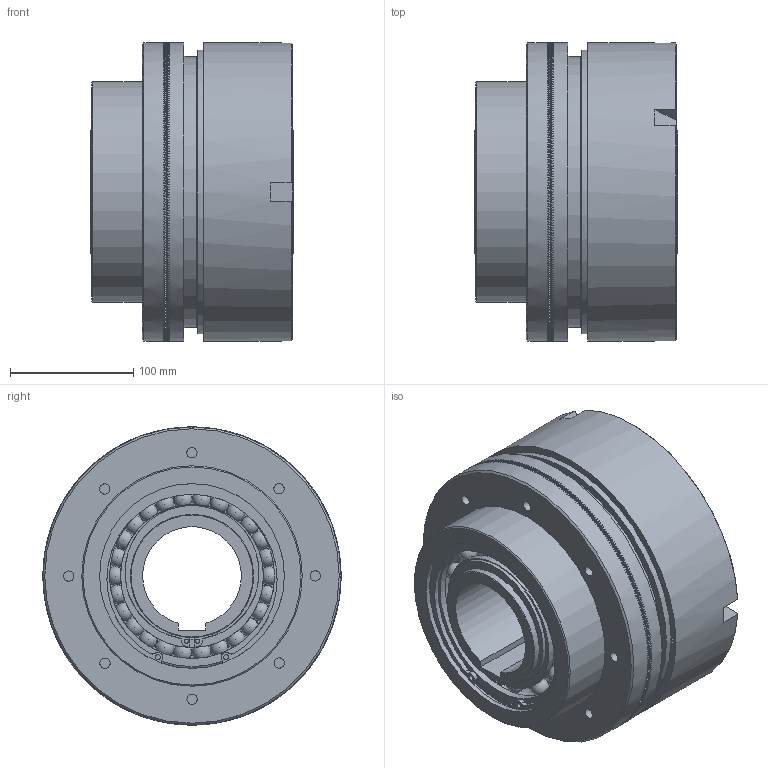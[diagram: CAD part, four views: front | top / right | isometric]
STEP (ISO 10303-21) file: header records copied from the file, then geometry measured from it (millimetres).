
FILE_DESCRIPTION(/* description */ (''),/* implementation_level */ '2;1');
FILE_NAME(/* name */ 'X:\INVENTOR\DISEGNI\03_Friz_Oleod_Pneum_Cil_Stat\03_20 DPR\03_20_08_01 DPR08\03_20_08_01 DPR08@STEP.stp',/* time_stamp */ '2017-05-31T10:48:08+02:00',/* author */ ('stefano'),/* organization */ (''),/* preprocessor_version */ 'ST-DEVELOPER v16.1',/* originating_system */ 'Autodesk Inventor 2016',/* authorisation */ '');
FILE_SCHEMA (('CONFIG_CONTROL_DESIGN'));
Products named in the file (1): 03_20_08_01 DPR08_Substitute_1
Bounding box: 165 x 242 x 242 mm (x, y, z)
Volume: 4761307.3 mm3; surface area: 675383 mm2
Topology: 1 solids, 1 shells, 3966 faces, 12185 edges, 8109 vertices
Faces by surface type: plane 2982, cylinder 546, torus 361, sphere 65, cone 12
Full cylindrical faces by diameter (mm): 3.5 x4, 4 x4, 7.5 x9, 8.376 x8, 10 x1, 14.95 x1, 96.5 x2, 100 x4, 112 x1, 116 x8, 134 x8, 136 x1, 138 x2, 140 x1, 150 x4, 155 x1, 160 x1, 162 x1, 162.4 x2, 179 x1, 187.6 x2, 194 x1, 210 x1, 211 x1, 220 x1, 224 x2, 230 x1, 242 x3
Entity records: 157568 total; most frequent: CARTESIAN_POINT 40881, DIRECTION 26205, ORIENTED_EDGE 23702, EDGE_CURVE 11851, AXIS2_PLACEMENT_3D 11363, VERTEX_POINT 7931, ELLIPSE 4323, EDGE_LOOP 4186
